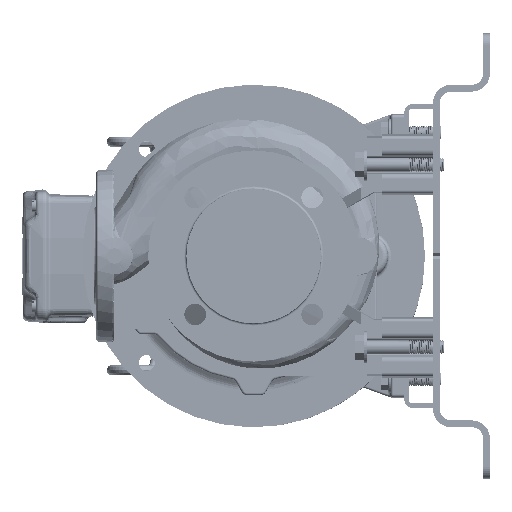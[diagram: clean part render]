
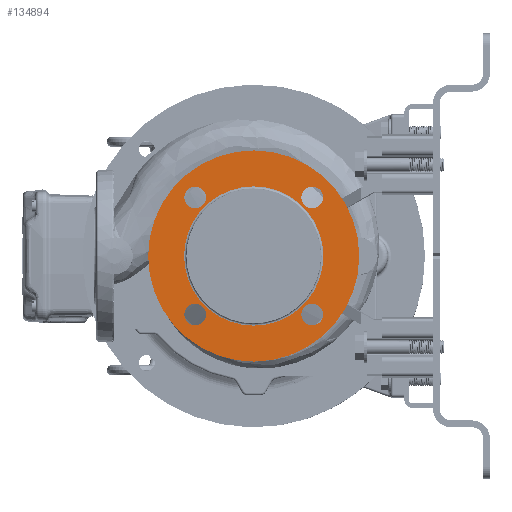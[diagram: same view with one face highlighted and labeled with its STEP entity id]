
A CAD part, left-side view. The second image highlights one B-rep face of the part: STEP entity #134894.
In plain terms, the highlighted planar face has unit normal (-1, 0, 0).
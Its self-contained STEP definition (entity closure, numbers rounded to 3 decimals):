
#759 = CARTESIAN_POINT ( 'NONE',  ( -61.626, 212.075, 207.366 ) ) ;
#1164 = AXIS2_PLACEMENT_3D ( 'NONE', #29413, #93936, #70324 ) ;
#1917 = CARTESIAN_POINT ( 'NONE',  ( -61.626, 160.81, 258.631 ) ) ;
#4360 = VERTEX_POINT ( 'NONE', #21414 ) ;
#4396 = ORIENTED_EDGE ( 'NONE', *, *, #93674, .F. ) ;
#4644 = FACE_BOUND ( 'NONE', #70777, .T. ) ;
#6174 = VERTEX_POINT ( 'NONE', #102000 ) ;
#7376 = CIRCLE ( 'NONE', #74169, 92.5 ) ;
#7807 = DIRECTION ( 'NONE',  ( 0., -1., 0. ) ) ;
#8323 = VERTEX_POINT ( 'NONE', #27263 ) ;
#10748 = AXIS2_PLACEMENT_3D ( 'NONE', #1917, #95209, #106576 ) ;
#11397 = EDGE_CURVE ( 'NONE', #120093, #159603, #169258, .T. ) ;
#12213 = CARTESIAN_POINT ( 'NONE',  ( -61.626, 99.81, 258.631 ) ) ;
#13520 = AXIS2_PLACEMENT_3D ( 'NONE', #43759, #148432, #163214 ) ;
#14565 = AXIS2_PLACEMENT_3D ( 'NONE', #139067, #111179, #110328 ) ;
#14687 = DIRECTION ( 'NONE',  ( -1., 0., 0. ) ) ;
#16712 = CIRCLE ( 'NONE', #114136, 92.5 ) ;
#19026 = DIRECTION ( 'NONE',  ( 0., 1., 0. ) ) ;
#19190 = CIRCLE ( 'NONE', #10748, 61. ) ;
#19319 = ORIENTED_EDGE ( 'NONE', *, *, #153747, .F. ) ;
#20842 = CIRCLE ( 'NONE', #146197, 9.5 ) ;
#21414 = CARTESIAN_POINT ( 'NONE',  ( -61.626, 119.045, 309.897 ) ) ;
#23213 = CARTESIAN_POINT ( 'NONE',  ( -61.626, 109.545, 207.366 ) ) ;
#25359 = ORIENTED_EDGE ( 'NONE', *, *, #150960, .F. ) ;
#25548 = EDGE_LOOP ( 'NONE', ( #70217, #19319 ) ) ;
#27263 = CARTESIAN_POINT ( 'NONE',  ( -61.626, 221.575, 309.897 ) ) ;
#29114 = CARTESIAN_POINT ( 'NONE',  ( -61.626, 100.045, 309.897 ) ) ;
#29413 = CARTESIAN_POINT ( 'NONE',  ( -61.626, 212.075, 207.366 ) ) ;
#31281 = EDGE_CURVE ( 'NONE', #118927, #133960, #16712, .T. ) ;
#32540 = FACE_OUTER_BOUND ( 'NONE', #98420, .T. ) ;
#33233 = CIRCLE ( 'NONE', #55527, 9.5 ) ;
#33365 = EDGE_CURVE ( 'NONE', #8323, #154066, #170444, .T. ) ;
#37486 = DIRECTION ( 'NONE',  ( 0., 0., -1. ) ) ;
#37819 = AXIS2_PLACEMENT_3D ( 'NONE', #72598, #57855, #125803 ) ;
#38428 = CARTESIAN_POINT ( 'NONE',  ( -61.626, 202.575, 207.366 ) ) ;
#43759 = CARTESIAN_POINT ( 'NONE',  ( -61.626, 212.075, 309.897 ) ) ;
#44790 = ORIENTED_EDGE ( 'NONE', *, *, #90561, .T. ) ;
#45907 = CARTESIAN_POINT ( 'NONE',  ( -61.626, 221.81, 258.631 ) ) ;
#47286 = DIRECTION ( 'NONE',  ( -1., 0., 0. ) ) ;
#48245 = EDGE_CURVE ( 'NONE', #153986, #4360, #33233, .T. ) ;
#55450 = CARTESIAN_POINT ( 'NONE',  ( -61.626, 212.075, 309.897 ) ) ;
#55527 = AXIS2_PLACEMENT_3D ( 'NONE', #66191, #77551, #37486 ) ;
#55974 = AXIS2_PLACEMENT_3D ( 'NONE', #23213, #86025, #126970 ) ;
#56762 = CARTESIAN_POINT ( 'NONE',  ( -61.626, 202.575, 309.897 ) ) ;
#57855 = DIRECTION ( 'NONE',  ( 1., 0., 0. ) ) ;
#60013 = DIRECTION ( 'NONE',  ( -1., 0., 0. ) ) ;
#60425 = CARTESIAN_POINT ( 'NONE',  ( -61.626, 221.575, 207.366 ) ) ;
#65954 = CARTESIAN_POINT ( 'NONE',  ( -61.626, 68.31, 258.631 ) ) ;
#66191 = CARTESIAN_POINT ( 'NONE',  ( -61.626, 109.545, 309.897 ) ) ;
#66390 = CIRCLE ( 'NONE', #13520, 9.5 ) ;
#66444 = EDGE_CURVE ( 'NONE', #6174, #137780, #153395, .T. ) ;
#67896 = DIRECTION ( 'NONE',  ( 0., -1., 0. ) ) ;
#69754 = EDGE_LOOP ( 'NONE', ( #167495, #75280 ) ) ;
#70217 = ORIENTED_EDGE ( 'NONE', *, *, #106726, .F. ) ;
#70324 = DIRECTION ( 'NONE',  ( 0., 0., 1. ) ) ;
#70777 = EDGE_LOOP ( 'NONE', ( #167544, #140523 ) ) ;
#70881 = FACE_BOUND ( 'NONE', #161187, .T. ) ;
#72598 = CARTESIAN_POINT ( 'NONE',  ( -61.626, 221.81, 258.631 ) ) ;
#72956 = VERTEX_POINT ( 'NONE', #38428 ) ;
#73033 = CIRCLE ( 'NONE', #14565, 9.5 ) ;
#74169 = AXIS2_PLACEMENT_3D ( 'NONE', #105311, #154389, #141300 ) ;
#75280 = ORIENTED_EDGE ( 'NONE', *, *, #122662, .F. ) ;
#77551 = DIRECTION ( 'NONE',  ( -1., 0., 0. ) ) ;
#86025 = DIRECTION ( 'NONE',  ( -1., 0., 0. ) ) ;
#87031 = AXIS2_PLACEMENT_3D ( 'NONE', #98362, #60013, #19026 ) ;
#87506 = CIRCLE ( 'NONE', #1164, 9.5 ) ;
#90561 = EDGE_CURVE ( 'NONE', #133960, #118927, #7376, .T. ) ;
#90826 = CARTESIAN_POINT ( 'NONE',  ( -61.626, 119.045, 207.366 ) ) ;
#92320 = DIRECTION ( 'NONE',  ( 0., 0., 1. ) ) ;
#93674 = EDGE_CURVE ( 'NONE', #159603, #120093, #19190, .T. ) ;
#93936 = DIRECTION ( 'NONE',  ( -1., 0., 0. ) ) ;
#95209 = DIRECTION ( 'NONE',  ( -1., 0., 0. ) ) ;
#95232 = AXIS2_PLACEMENT_3D ( 'NONE', #55450, #47286, #120809 ) ;
#98362 = CARTESIAN_POINT ( 'NONE',  ( -61.626, 109.545, 207.366 ) ) ;
#98420 = EDGE_LOOP ( 'NONE', ( #44790, #165581 ) ) ;
#98776 = FACE_BOUND ( 'NONE', #146264, .T. ) ;
#102000 = CARTESIAN_POINT ( 'NONE',  ( -61.626, 100.045, 207.366 ) ) ;
#105311 = CARTESIAN_POINT ( 'NONE',  ( -61.626, 160.81, 258.631 ) ) ;
#106576 = DIRECTION ( 'NONE',  ( 0., -1., 0. ) ) ;
#106726 = EDGE_CURVE ( 'NONE', #72956, #134959, #20842, .T. ) ;
#110328 = DIRECTION ( 'NONE',  ( 0., 0., -1. ) ) ;
#111179 = DIRECTION ( 'NONE',  ( -1., 0., 0. ) ) ;
#114136 = AXIS2_PLACEMENT_3D ( 'NONE', #127238, #169972, #7807 ) ;
#116323 = AXIS2_PLACEMENT_3D ( 'NONE', #151529, #121933, #67896 ) ;
#118927 = VERTEX_POINT ( 'NONE', #124302 ) ;
#120093 = VERTEX_POINT ( 'NONE', #12213 ) ;
#120809 = DIRECTION ( 'NONE',  ( 0., -1., 0. ) ) ;
#121933 = DIRECTION ( 'NONE',  ( -1., 0., 0. ) ) ;
#122662 = EDGE_CURVE ( 'NONE', #4360, #153986, #73033, .T. ) ;
#124070 = FACE_BOUND ( 'NONE', #25548, .T. ) ;
#124302 = CARTESIAN_POINT ( 'NONE',  ( -61.626, 253.31, 258.631 ) ) ;
#125803 = DIRECTION ( 'NONE',  ( 0., 1., 0. ) ) ;
#126970 = DIRECTION ( 'NONE',  ( 0., 1., 0. ) ) ;
#127238 = CARTESIAN_POINT ( 'NONE',  ( -61.626, 160.81, 258.631 ) ) ;
#128727 = CIRCLE ( 'NONE', #87031, 9.5 ) ;
#133960 = VERTEX_POINT ( 'NONE', #65954 ) ;
#134894 = ADVANCED_FACE ( 'NONE', ( #163348, #70881, #124070, #4644, #98776, #32540 ), #138874, .F. ) ;
#134959 = VERTEX_POINT ( 'NONE', #60425 ) ;
#137780 = VERTEX_POINT ( 'NONE', #90826 ) ;
#138874 = PLANE ( 'NONE',  #37819 ) ;
#139067 = CARTESIAN_POINT ( 'NONE',  ( -61.626, 109.545, 309.897 ) ) ;
#140523 = ORIENTED_EDGE ( 'NONE', *, *, #33365, .F. ) ;
#141300 = DIRECTION ( 'NONE',  ( 0., -1., 0. ) ) ;
#146197 = AXIS2_PLACEMENT_3D ( 'NONE', #759, #14687, #92320 ) ;
#146264 = EDGE_LOOP ( 'NONE', ( #161020, #4396 ) ) ;
#148432 = DIRECTION ( 'NONE',  ( -1., 0., 0. ) ) ;
#150960 = EDGE_CURVE ( 'NONE', #137780, #6174, #128727, .T. ) ;
#151090 = ORIENTED_EDGE ( 'NONE', *, *, #66444, .F. ) ;
#151529 = CARTESIAN_POINT ( 'NONE',  ( -61.626, 160.81, 258.631 ) ) ;
#153395 = CIRCLE ( 'NONE', #55974, 9.5 ) ;
#153747 = EDGE_CURVE ( 'NONE', #134959, #72956, #87506, .T. ) ;
#153986 = VERTEX_POINT ( 'NONE', #29114 ) ;
#154066 = VERTEX_POINT ( 'NONE', #56762 ) ;
#154389 = DIRECTION ( 'NONE',  ( -1., 0., 0. ) ) ;
#159603 = VERTEX_POINT ( 'NONE', #45907 ) ;
#161020 = ORIENTED_EDGE ( 'NONE', *, *, #11397, .F. ) ;
#161187 = EDGE_LOOP ( 'NONE', ( #151090, #25359 ) ) ;
#163214 = DIRECTION ( 'NONE',  ( 0., -1., 0. ) ) ;
#163348 = FACE_BOUND ( 'NONE', #69754, .T. ) ;
#165581 = ORIENTED_EDGE ( 'NONE', *, *, #31281, .T. ) ;
#167495 = ORIENTED_EDGE ( 'NONE', *, *, #48245, .F. ) ;
#167544 = ORIENTED_EDGE ( 'NONE', *, *, #169294, .F. ) ;
#169258 = CIRCLE ( 'NONE', #116323, 61. ) ;
#169294 = EDGE_CURVE ( 'NONE', #154066, #8323, #66390, .T. ) ;
#169972 = DIRECTION ( 'NONE',  ( -1., 0., 0. ) ) ;
#170444 = CIRCLE ( 'NONE', #95232, 9.5 ) ;
